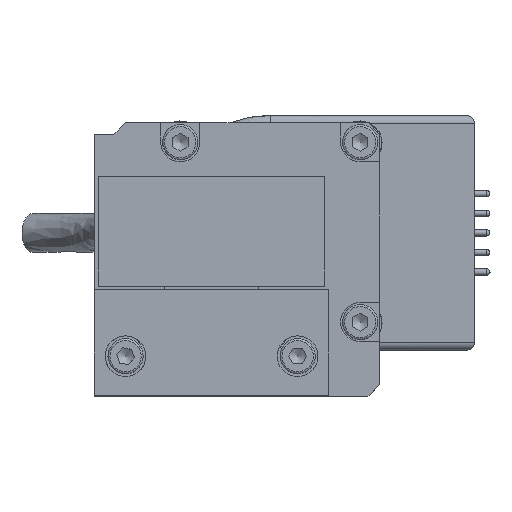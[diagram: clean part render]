
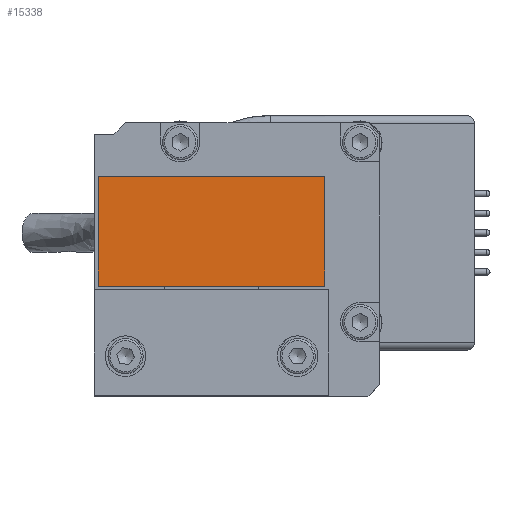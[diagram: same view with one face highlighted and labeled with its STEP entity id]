
A CAD part, top view. The second image highlights one B-rep face of the part: STEP entity #15338.
In plain terms, the highlighted planar face has unit normal (0, 0, 1).
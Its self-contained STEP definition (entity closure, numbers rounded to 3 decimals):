
#2054=FACE_OUTER_BOUND($,#3115,.T.);
#3115=EDGE_LOOP($,(#13732,#13733,#13734,#13735));
#4218=LINE($,#28242,#5303);
#4224=LINE($,#28288,#5309);
#4225=LINE($,#28290,#5310);
#4226=LINE($,#28291,#5311);
#5303=VECTOR($,#20443,14.);
#5309=VECTOR($,#20495,29.);
#5310=VECTOR($,#20496,29.);
#5311=VECTOR($,#20497,14.);
#7283=VERTEX_POINT($,#28239);
#7284=VERTEX_POINT($,#28241);
#7301=VERTEX_POINT($,#28287);
#7302=VERTEX_POINT($,#28289);
#9459=EDGE_CURVE($,#7284,#7283,#4218,.T.);
#9477=EDGE_CURVE($,#7301,#7284,#4224,.T.);
#9478=EDGE_CURVE($,#7283,#7302,#4225,.T.);
#9479=EDGE_CURVE($,#7302,#7301,#4226,.T.);
#13732=ORIENTED_EDGE($,*,*,#9477,.T.);
#13733=ORIENTED_EDGE($,*,*,#9459,.T.);
#13734=ORIENTED_EDGE($,*,*,#9478,.T.);
#13735=ORIENTED_EDGE($,*,*,#9479,.T.);
#14453=PLANE($,#16728);
#15338=ADVANCED_FACE($,(#2054),#14453,.T.);
#16728=AXIS2_PLACEMENT_3D($,#28286,#20493,#20494);
#20443=DIRECTION($,(0.,1.,0.));
#20493=DIRECTION('center_axis',(0.,0.,
1.));
#20494=DIRECTION('ref_axis',(1.,0.,0.));
#20495=DIRECTION($,(1.,0.,0.));
#20496=DIRECTION($,(-1.,0.,0.));
#20497=DIRECTION($,(0.,-1.,0.));
#28239=CARTESIAN_POINT('',(66.722,35.846,65.363));
#28241=CARTESIAN_POINT('',(66.722,21.846,65.363));
#28242=CARTESIAN_POINT($,(66.722,21.846,65.363));
#28286=CARTESIAN_POINT('Origin',(52.222,28.694,65.363));
#28287=CARTESIAN_POINT('',(37.722,21.846,65.363));
#28288=CARTESIAN_POINT($,(37.722,21.846,65.363));
#28289=CARTESIAN_POINT('',(37.722,35.846,65.363));
#28290=CARTESIAN_POINT($,(66.722,35.846,65.363));
#28291=CARTESIAN_POINT($,(37.722,35.846,65.363));
